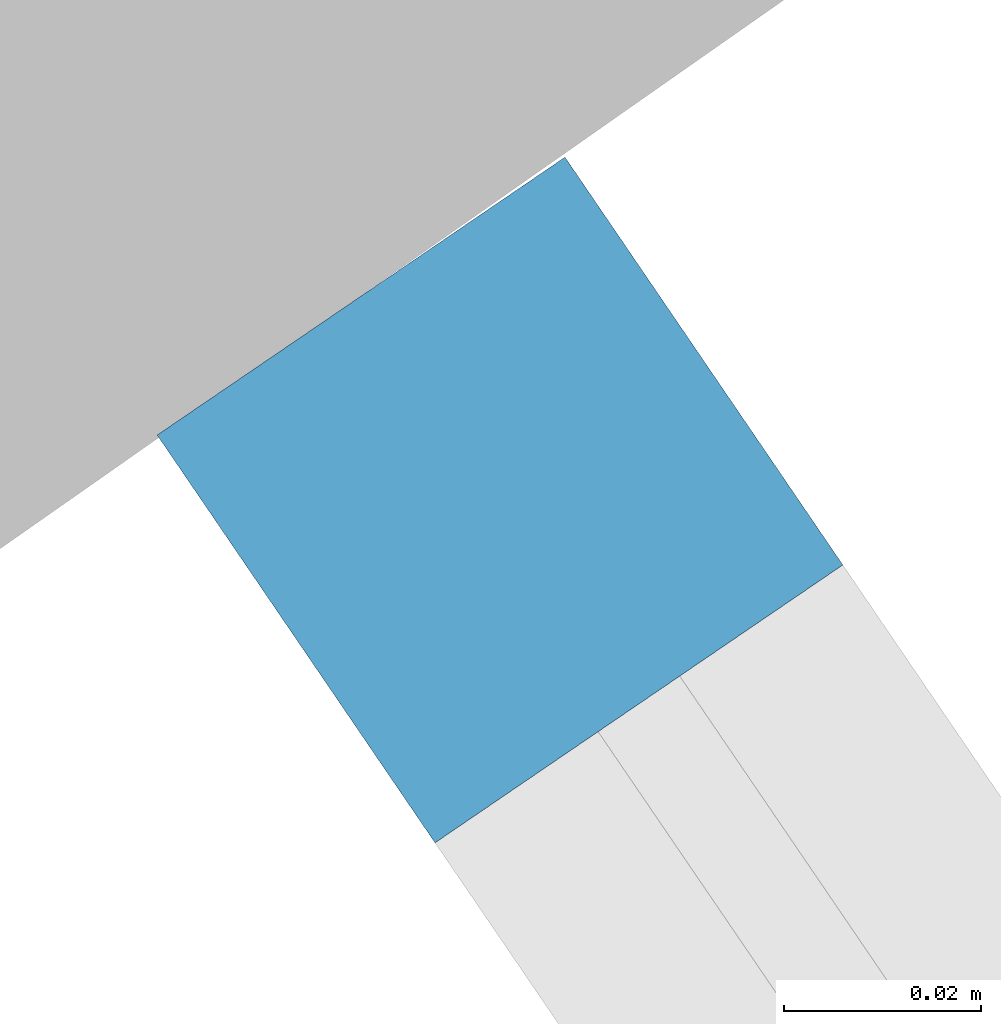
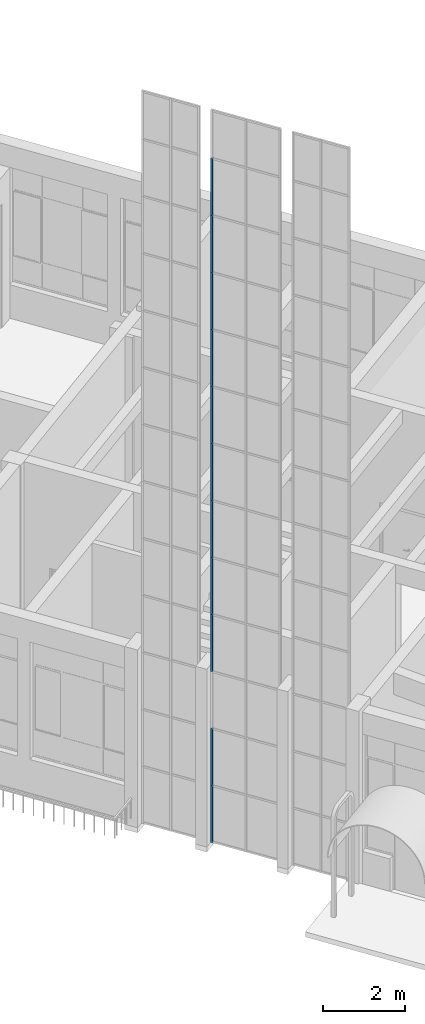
# One storey, part 13 of 157: 11 members, 1 element without a shape of its own.
"""IFC2X3 building model written with IfcOpenShell, lengths in millimetres."""

from ifc_helpers import new_model, entity, si_unit, converted_unit, derived_unit, direction, frame, origin, origin_2d_with_axis, place, context, subcontext, project, spatial, rectangle, extrude, source, transform, mapped, material, type_object, type_shapes, element, aggregate, save


model = new_model("IFC2X3")

# Units and contexts
model_context = context("Model", 3, precision=0.01, world=origin(), true_north=direction((6.123031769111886e-17, 1.0)))
body_context = subcontext(model_context, "Body", "Model", "MODEL_VIEW")
ifc_project = project(units=[si_unit("LENGTHUNIT", "METRE", prefix="MILLI"), si_unit("AREAUNIT", "SQUARE_METRE"), si_unit("VOLUMEUNIT", "CUBIC_METRE"), converted_unit("PLANEANGLEUNIT", "DEGREE", entity("IfcRatioMeasure", 0.017453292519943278), si_unit("PLANEANGLEUNIT", "RADIAN"), dimensions=[0, 0, 0, 0, 0, 0, 0]), si_unit("MASSUNIT", "GRAM", prefix="KILO"), derived_unit("MASSDENSITYUNIT", [(si_unit("MASSUNIT", "GRAM", prefix="KILO"), 1), (si_unit("LENGTHUNIT", "METRE"), -3)]), derived_unit("MOMENTOFINERTIAUNIT", [(si_unit("LENGTHUNIT", "METRE"), 4)]), si_unit("TIMEUNIT", "SECOND"), si_unit("FREQUENCYUNIT", "HERTZ"), si_unit("THERMODYNAMICTEMPERATUREUNIT", "DEGREE_CELSIUS"), derived_unit("THERMALTRANSMITTANCEUNIT", [(si_unit("MASSUNIT", "GRAM", prefix="KILO"), 1), (si_unit("THERMODYNAMICTEMPERATUREUNIT", "KELVIN"), -1), (si_unit("TIMEUNIT", "SECOND"), -3)]), derived_unit("THERMALCONDUCTANCEUNIT", [(si_unit("MASSUNIT", "GRAM", prefix="KILO"), 1), (si_unit("LENGTHUNIT", "METRE"), 1), (si_unit("THERMODYNAMICTEMPERATUREUNIT", "KELVIN"), -1), (si_unit("TIMEUNIT", "SECOND"), -3)]), derived_unit("VOLUMETRICFLOWRATEUNIT", [(si_unit("LENGTHUNIT", "METRE"), 3), (si_unit("TIMEUNIT", "SECOND"), -1)]), derived_unit("MASSFLOWRATEUNIT", [(si_unit("MASSUNIT", "GRAM", prefix="KILO"), 1), (si_unit("TIMEUNIT", "SECOND"), -1)]), derived_unit("ROTATIONALFREQUENCYUNIT", [(si_unit("TIMEUNIT", "SECOND"), -1)]), si_unit("ELECTRICCURRENTUNIT", "AMPERE"), si_unit("ELECTRICVOLTAGEUNIT", "VOLT"), si_unit("POWERUNIT", "WATT"), converted_unit("FORCEUNIT", "KIP", entity("IfcRatioMeasure", 2.088543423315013e-05), si_unit("FORCEUNIT", "NEWTON"), dimensions=[1, 1, -2, 0, 0, 0, 0]), si_unit("ILLUMINANCEUNIT", "LUX"), si_unit("LUMINOUSFLUXUNIT", "LUMEN"), si_unit("LUMINOUSINTENSITYUNIT", "CANDELA"), derived_unit("USERDEFINED", [(si_unit("MASSUNIT", "GRAM", prefix="KILO"), -1), (si_unit("LENGTHUNIT", "METRE"), -2), (si_unit("TIMEUNIT", "SECOND"), 3), (si_unit("LUMINOUSFLUXUNIT", "LUMEN"), 1)]), derived_unit("USERDEFINED", [(si_unit("MASSUNIT", "GRAM", prefix="KILO"), 1), (si_unit("LENGTHUNIT", "METRE"), 3), (si_unit("TIMEUNIT", "SECOND"), -3), (si_unit("ELECTRICCURRENTUNIT", "AMPERE"), -2)]), derived_unit("USERDEFINED", [(si_unit("LENGTHUNIT", "METRE"), 2), (si_unit("TIMEUNIT", "SECOND"), -2)]), derived_unit("SOUNDPOWERUNIT", [(si_unit("MASSUNIT", "GRAM", prefix="KILO"), 1), (si_unit("LENGTHUNIT", "METRE"), 2), (si_unit("TIMEUNIT", "SECOND"), -3)]), derived_unit("SOUNDPRESSUREUNIT", [(si_unit("MASSUNIT", "GRAM", prefix="KILO"), 1), (si_unit("LENGTHUNIT", "METRE"), -1), (si_unit("TIMEUNIT", "SECOND"), -2)]), derived_unit("LINEARVELOCITYUNIT", [(si_unit("LENGTHUNIT", "METRE"), 1), (si_unit("TIMEUNIT", "SECOND"), -1)]), si_unit("PRESSUREUNIT", "PASCAL"), derived_unit("USERDEFINED", [(si_unit("LENGTHUNIT", "METRE"), -2), (si_unit("MASSUNIT", "GRAM", prefix="KILO"), 1), (si_unit("TIMEUNIT", "SECOND"), -2)]), derived_unit("LINEARFORCEUNIT", [(si_unit("MASSUNIT", "GRAM", prefix="KILO"), 1), (si_unit("LENGTHUNIT", "METRE"), 1), (si_unit("TIMEUNIT", "SECOND"), -2), (si_unit("LENGTHUNIT", "METRE"), -1)]), derived_unit("PLANARFORCEUNIT", [(si_unit("MASSUNIT", "GRAM", prefix="KILO"), 1), (si_unit("LENGTHUNIT", "METRE"), 1), (si_unit("TIMEUNIT", "SECOND"), -2), (si_unit("LENGTHUNIT", "METRE"), -2)]), derived_unit("SPECIFICHEATCAPACITYUNIT", [(si_unit("LENGTHUNIT", "METRE"), 2), (si_unit("TIMEUNIT", "SECOND"), -2), (si_unit("THERMODYNAMICTEMPERATUREUNIT", "KELVIN"), -1)]), derived_unit("VAPORPERMEABILITYUNIT", [(si_unit("TIMEUNIT", "SECOND"), 1), (si_unit("LENGTHUNIT", "METRE"), -1)]), derived_unit("DYNAMICVISCOSITYUNIT", [(si_unit("MASSUNIT", "GRAM", prefix="KILO"), 1), (si_unit("LENGTHUNIT", "METRE"), -1), (si_unit("TIMEUNIT", "SECOND"), -1)]), derived_unit("THERMALEXPANSIONCOEFFICIENTUNIT", [(si_unit("THERMODYNAMICTEMPERATUREUNIT", "KELVIN"), -1)])], contexts=[model_context])

# Site, building, storey
site_placement = place(None, frame((0.0, 0.0, 0.0), z_axis=(0.0, 0.0, 1.0), x_axis=(0.8191520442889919, 0.5735764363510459, 0.0)))
site = spatial("IfcSite", under=ifc_project, at=site_placement, Name="Default", CompositionType="ELEMENT")
building_placement = place(site_placement, origin())
building = spatial("IfcBuilding", under=site, at=building_placement, CompositionType="ELEMENT")
storey_placement = place(building_placement, origin())
storey = spatial("IfcBuildingStorey", under=building, at=storey_placement, Name="1.EG +0.00", CompositionType="ELEMENT", Elevation=-4.331468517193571e-12)

# Curtain wall, members
curtain_wall_type = type_object("IfcCurtainWallType", Name="Curtain Wall:Curtain_Wall_CJC 2", PredefinedType="NOTDEFINED")
curtain_wall_placement = place(storey_placement, origin())
curtain_wall = element("IfcCurtainWall", 1, at=curtain_wall_placement, inside=storey, type_object=curtain_wall_type, Name="Curtain Wall:Curtain_Wall_CJC 2", ObjectType="Curtain Wall:Curtain_Wall_CJC 2")
ifc_material = material(Name="Aluminium")
member_type_1 = type_object("IfcMemberType", Name="Rectangular Mullion:5x5", PredefinedType="MULLION", material=ifc_material)
shared_shape_1 = source(origin(), body_context, "Body", "SweptSolid", [
    extrude(rectangle(XDim=50.0, YDim=50.0, at=origin_2d_with_axis()), frame((-25.0, 0.0, -1700.0), z_axis=(0.0, 0.0, 1.0), x_axis=(0.0, -1.0, 0.0)), (0.0, 0.0, 1.0), 1700.0),
])
type_shapes(member_type_1, [shared_shape_1])
member_1_placement = place(curtain_wall_placement, frame((-223074.40434013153, 113645.23194626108, 1700.0), z_axis=(0.0, 0.0, -1.0), x_axis=(0.01272958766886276, 0.999918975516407, 0.0)))
member_1 = element("IfcMember", 2, at=member_1_placement, type_object=member_type_1, material=ifc_material, Name="Rectangular Mullion:5x5", ObjectType="Rectangular Mullion:5x5", context=body_context, shape_type="MappedRepresentation", body=[
    mapped(shared_shape_1, transform((0.0, 0.0, 0.0), scale=1.0)),
])
member_2_placement = place(curtain_wall_placement, frame((-223074.40434013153, 113645.23194626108, 5100.0), z_axis=(0.0, 0.0, -1.0), x_axis=(0.01272958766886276, 0.999918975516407, 0.0)))
member_2 = element("IfcMember", 3, at=member_2_placement, type_object=member_type_1, material=ifc_material, Name="Rectangular Mullion:5x5", ObjectType="Rectangular Mullion:5x5", context=body_context, shape_type="MappedRepresentation", body=[
    mapped(shared_shape_1, transform((0.0, 0.0, 0.0), scale=1.0)),
])
member_3_placement = place(curtain_wall_placement, frame((-223074.40434013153, 113645.23194626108, 6800.0), z_axis=(0.0, 0.0, -1.0), x_axis=(0.01272958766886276, 0.999918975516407, 0.0)))
member_3 = element("IfcMember", 4, at=member_3_placement, type_object=member_type_1, material=ifc_material, Name="Rectangular Mullion:5x5", ObjectType="Rectangular Mullion:5x5", context=body_context, shape_type="MappedRepresentation", body=[
    mapped(shared_shape_1, transform((0.0, 0.0, 0.0), scale=1.0)),
])
member_4_placement = place(curtain_wall_placement, frame((-223074.40434013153, 113645.23194626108, 8500.0), z_axis=(0.0, 0.0, -1.0), x_axis=(0.01272958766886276, 0.999918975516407, 0.0)))
member_4 = element("IfcMember", 5, at=member_4_placement, type_object=member_type_1, material=ifc_material, Name="Rectangular Mullion:5x5", ObjectType="Rectangular Mullion:5x5", context=body_context, shape_type="MappedRepresentation", body=[
    mapped(shared_shape_1, transform((0.0, 0.0, 0.0), scale=1.0)),
])
member_5_placement = place(curtain_wall_placement, frame((-223074.40434013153, 113645.23194626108, 10200.0), z_axis=(0.0, 0.0, -1.0), x_axis=(0.01272958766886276, 0.999918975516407, 0.0)))
member_5 = element("IfcMember", 6, at=member_5_placement, type_object=member_type_1, material=ifc_material, Name="Rectangular Mullion:5x5", ObjectType="Rectangular Mullion:5x5", context=body_context, shape_type="MappedRepresentation", body=[
    mapped(shared_shape_1, transform((0.0, 0.0, 0.0), scale=1.0)),
])
member_6_placement = place(curtain_wall_placement, frame((-223074.40434013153, 113645.23194626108, 11900.0), z_axis=(0.0, 0.0, -1.0), x_axis=(0.01272958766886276, 0.999918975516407, 0.0)))
member_6 = element("IfcMember", 7, at=member_6_placement, type_object=member_type_1, material=ifc_material, Name="Rectangular Mullion:5x5", ObjectType="Rectangular Mullion:5x5", context=body_context, shape_type="MappedRepresentation", body=[
    mapped(shared_shape_1, transform((0.0, 0.0, 0.0), scale=1.0)),
])
member_7_placement = place(curtain_wall_placement, frame((-223074.40434013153, 113645.23194626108, 13600.0), z_axis=(0.0, 0.0, -1.0), x_axis=(0.01272958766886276, 0.999918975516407, 0.0)))
member_7 = element("IfcMember", 8, at=member_7_placement, type_object=member_type_1, material=ifc_material, Name="Rectangular Mullion:5x5", ObjectType="Rectangular Mullion:5x5", context=body_context, shape_type="MappedRepresentation", body=[
    mapped(shared_shape_1, transform((0.0, 0.0, 0.0), scale=1.0)),
])
member_8_placement = place(curtain_wall_placement, frame((-223074.40434013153, 113645.23194626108, 15300.0), z_axis=(0.0, 0.0, -1.0), x_axis=(0.01272958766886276, 0.999918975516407, 0.0)))
member_8 = element("IfcMember", 9, at=member_8_placement, type_object=member_type_1, material=ifc_material, Name="Rectangular Mullion:5x5", ObjectType="Rectangular Mullion:5x5", context=body_context, shape_type="MappedRepresentation", body=[
    mapped(shared_shape_1, transform((0.0, 0.0, 0.0), scale=1.0)),
])
member_9_placement = place(curtain_wall_placement, frame((-223074.40434013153, 113645.23194626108, 17000.0), z_axis=(0.0, 0.0, -1.0), x_axis=(0.01272958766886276, 0.999918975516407, 0.0)))
member_9 = element("IfcMember", 10, at=member_9_placement, type_object=member_type_1, material=ifc_material, Name="Rectangular Mullion:5x5", ObjectType="Rectangular Mullion:5x5", context=body_context, shape_type="MappedRepresentation", body=[
    mapped(shared_shape_1, transform((0.0, 0.0, 0.0), scale=1.0)),
])
member_10_placement = place(curtain_wall_placement, frame((-223074.40434013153, 113645.23194626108, 18700.0), z_axis=(0.0, 0.0, -1.0), x_axis=(0.01272958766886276, 0.999918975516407, 0.0)))
member_10 = element("IfcMember", 11, at=member_10_placement, type_object=member_type_1, material=ifc_material, Name="Rectangular Mullion:5x5", ObjectType="Rectangular Mullion:5x5", context=body_context, shape_type="MappedRepresentation", body=[
    mapped(shared_shape_1, transform((0.0, 0.0, 0.0), scale=1.0)),
])
member_type_2 = type_object("IfcMemberType", Name="Rectangular Mullion:5x5", PredefinedType="MULLION", material=ifc_material)
shared_shape_2 = source(origin(), body_context, "Body", "SweptSolid", [
    extrude(rectangle(XDim=50.0, YDim=50.0, at=origin_2d_with_axis()), frame((-25.0, 0.0, -1700.0), z_axis=(0.0, 0.0, 1.0), x_axis=(0.0, -1.0, 0.0)), (0.0, 0.0, 1.0), 1700.0),
])
type_shapes(member_type_2, [shared_shape_2])
member_11_placement = place(curtain_wall_placement, frame((-223074.40434013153, 113645.23194626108, 0.0), z_axis=(0.0, 0.0, -1.0), x_axis=(0.01272958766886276, 0.999918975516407, 0.0)))
member_11 = element("IfcMember", 12, at=member_11_placement, type_object=member_type_2, material=ifc_material, Name="Rectangular Mullion:5x5", ObjectType="Rectangular Mullion:5x5", context=body_context, shape_type="MappedRepresentation", body=[
    mapped(shared_shape_2, transform((0.0, 0.0, 0.0), scale=1.0)),
])
aggregate(curtain_wall, [member_1, member_11, member_2, member_3, member_4, member_5, member_6, member_7, member_8, member_9, member_10])

save(model, "model.ifc")
